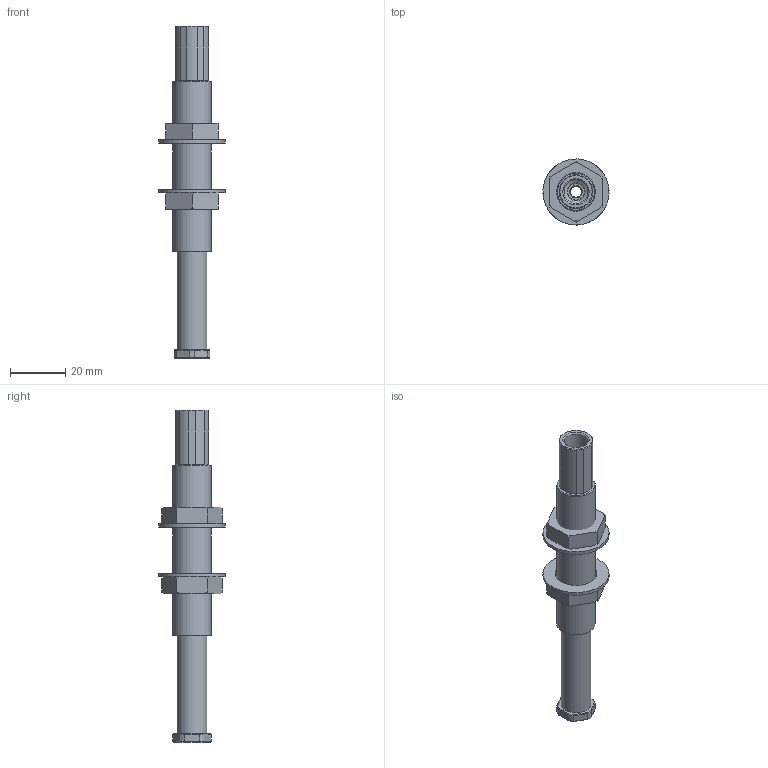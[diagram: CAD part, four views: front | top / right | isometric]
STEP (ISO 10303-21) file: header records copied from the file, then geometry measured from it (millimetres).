
FILE_DESCRIPTION(('STEP AP214'),'1');
FILE_NAME('CA.SDRG.1435.stp','2018-10-11T12:43:04',(' '),(' '),'Spatial InterOp 3D',' ',' ');
FILE_SCHEMA(('AUTOMOTIVE_DESIGN { 1 0 10303 214 1 1 1 1 }'));
Length unit declared in the file: millimetre
Products named in the file (7): CA.SDRG.1435; R.14.SCH; 05.01.001.06; VSN.14.1; SDRG.1435.02; M.8.5X48.50.1; SDR.1435.01
Assembly tree (8 placements, depth 2):
  CA.SDRG.1435
    R.14.SCH  x2
    05.01.001.06  x2
    VSN.14.1
    SDRG.1435.02
    M.8.5X48.50.1
    SDR.1435.01
Bounding box: 23.97 x 23.97 x 120.5 mm (x, y, z)
Volume: 12368.3 mm3; surface area: 15679.2 mm2
Topology: 8 solids, 8 shells, 136 faces, 317 edges, 200 vertices
Faces by surface type: plane 56, cone 49, cylinder 30, bspline 1
Full cylindrical faces by diameter (mm): 4 x1, 6 x1, 7 x3, 8.566 x3, 10.8 x1, 11 x1, 13 x2, 14 x1, 15 x2, 24 x2
Entity records: 8538 total; most frequent: CARTESIAN_POINT 5191, DIRECTION 478, ORIENTED_EDGE 440, EDGE_CURVE 220, AXIS2_PLACEMENT_3D 205, EDGE_LOOP 151, VERTEX_POINT 151, FACE_OUTER_BOUND 125
